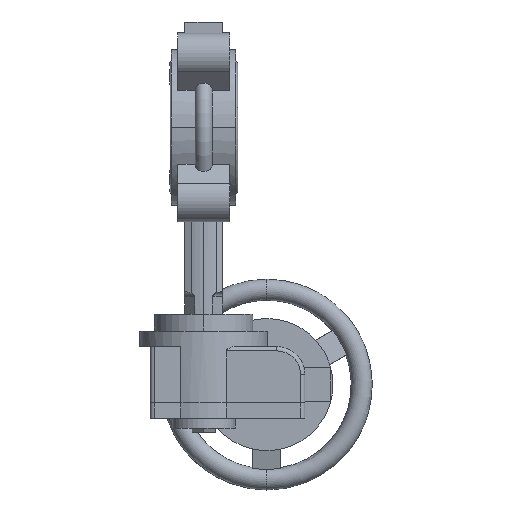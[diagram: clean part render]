
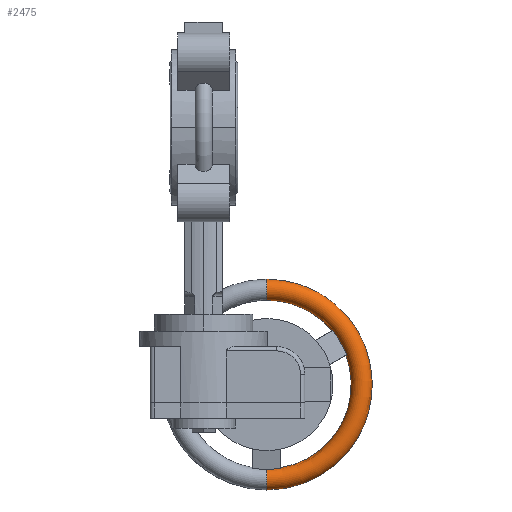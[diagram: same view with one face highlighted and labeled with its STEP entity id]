
A CAD part, left-side view. The second image highlights one B-rep face of the part: STEP entity #2475.
In plain terms, the highlighted toroidal (fillet/blend) face has major radius 67.5 mm and minor radius 7.5 mm.
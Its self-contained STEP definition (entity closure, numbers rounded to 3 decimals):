
#152 = DIRECTION ( 'NONE',  ( 0., -1., 0. ) ) ;
#168 = CARTESIAN_POINT ( 'NONE',  ( -160.626, -34.033, 84.43 ) ) ;
#220 = CARTESIAN_POINT ( 'NONE',  ( -161.319, -33.966, 84.314 ) ) ;
#335 = CARTESIAN_POINT ( 'NONE',  ( -161.319, 46.252, 38. ) ) ;
#371 = CARTESIAN_POINT ( 'NONE',  ( -159.921, 47.457, 28. ) ) ;
#430 = CARTESIAN_POINT ( 'NONE',  ( -162.262, 46.161, 38. ) ) ;
#503 = ORIENTED_EDGE ( 'NONE', *, *, #8174, .T. ) ;
#583 = EDGE_CURVE ( 'NONE', #5856, #6683, #4786, .T. ) ;
#640 = VERTEX_POINT ( 'NONE', #2527 ) ;
#646 = CARTESIAN_POINT ( 'NONE',  ( -162.5, -51.241, 74.235 ) ) ;
#761 = DIRECTION ( 'NONE',  ( -1., 0., 0. ) ) ;
#804 = CARTESIAN_POINT ( 'NONE',  ( -162.5, -80.5, 28. ) ) ;
#870 = CIRCLE ( 'NONE', #6025, 60. ) ;
#890 = ORIENTED_EDGE ( 'NONE', *, *, #7714, .T. ) ;
#902 = CARTESIAN_POINT ( 'NONE',  ( -159.921, 47.457, 31.343 ) ) ;
#939 = ORIENTED_EDGE ( 'NONE', *, *, #583, .T. ) ;
#990 = CARTESIAN_POINT ( 'NONE',  ( -159.857, -48.888, 76.797 ) ) ;
#1040 = CARTESIAN_POINT ( 'NONE',  ( -159.793, -35.752, 84.09 ) ) ;
#1103 = CARTESIAN_POINT ( 'NONE',  ( -162.5, -33.92, 84.235 ) ) ;
#1429 = B_SPLINE_CURVE_WITH_KNOTS ( 'NONE', 3,
 ( #9437, #430, #7263, #1792, #335, #5580, #8819, #9529 ),
 .UNSPECIFIED., .F., .F.,
 ( 4, 2, 2, 4 ),
 ( 0.047, 0.048, 0.048, 0.05 ),
 .UNSPECIFIED. ) ;
#1459 = DIRECTION ( 'NONE',  ( 0., 0., -1. ) ) ;
#1470 = ORIENTED_EDGE ( 'NONE', *, *, #3053, .T. ) ;
#1594 = CARTESIAN_POINT ( 'NONE',  ( -159.905, -40.318, 81.966 ) ) ;
#1610 = ORIENTED_EDGE ( 'NONE', *, *, #9621, .T. ) ;
#1718 = VERTEX_POINT ( 'NONE', #4149 ) ;
#1749 = CARTESIAN_POINT ( 'NONE',  ( -159.921, -41.797, 81.185 ) ) ;
#1770 = CARTESIAN_POINT ( 'NONE',  ( -162.262, -33.92, 84.235 ) ) ;
#1792 = CARTESIAN_POINT ( 'NONE',  ( -161.552, 46.218, 38. ) ) ;
#1915 = VERTEX_POINT ( 'NONE', #5585 ) ;
#2095 = CARTESIAN_POINT ( 'NONE',  ( -162.5, 54.5, 28. ) ) ;
#2126 = CARTESIAN_POINT ( 'NONE',  ( -162.5, -13., 28. ) ) ;
#2326 = AXIS2_PLACEMENT_3D ( 'NONE', #804, #1459, #761 ) ;
#2413 = VERTEX_POINT ( 'NONE', #371 ) ;
#2475 = ADVANCED_FACE ( 'NONE', ( #2777 ), #7711, .T. ) ;
#2527 = CARTESIAN_POINT ( 'NONE',  ( -159.729, -34.189, 84.701 ) ) ;
#2777 = FACE_OUTER_BOUND ( 'NONE', #6488, .T. ) ;
#2975 = CIRCLE ( 'NONE', #6360, 60. ) ;
#2980 = EDGE_CURVE ( 'NONE', #1718, #3933, #4512, .T. ) ;
#3053 = EDGE_CURVE ( 'NONE', #1915, #2413, #8951, .T. ) ;
#3218 = CARTESIAN_POINT ( 'NONE',  ( -161.552, -51.269, 74.284 ) ) ;
#3238 = AXIS2_PLACEMENT_3D ( 'NONE', #2095, #7467, #6775 ) ;
#3248 = EDGE_CURVE ( 'NONE', #2413, #3933, #8848, .T. ) ;
#3274 = CARTESIAN_POINT ( 'NONE',  ( -162.262, -51.241, 74.235 ) ) ;
#3359 = CARTESIAN_POINT ( 'NONE',  ( -159.857, 47.204, 34.677 ) ) ;
#3660 = EDGE_CURVE ( 'NONE', #8286, #640, #9787, .T. ) ;
#3933 = VERTEX_POINT ( 'NONE', #4633 ) ;
#3982 = VERTEX_POINT ( 'NONE', #6096 ) ;
#3983 = CARTESIAN_POINT ( 'NONE',  ( -161.319, -51.286, 74.314 ) ) ;
#4149 = CARTESIAN_POINT ( 'NONE',  ( -162.5, -88., 28. ) ) ;
#4385 = DIRECTION ( 'NONE',  ( -1., 0., 0. ) ) ;
#4512 = CIRCLE ( 'NONE', #5319, 75. ) ;
#4633 = CARTESIAN_POINT ( 'NONE',  ( -162.5, 62., 28. ) ) ;
#4786 = B_SPLINE_CURVE_WITH_KNOTS ( 'NONE', 3,
 ( #7885, #3274, #6490, #3218, #3983, #4977, #5596, #5744 ),
 .UNSPECIFIED., .F., .F.,
 ( 4, 2, 2, 4 ),
 ( 0.047, 0.048, 0.048, 0.05 ),
 .UNSPECIFIED. ) ;
#4845 = CARTESIAN_POINT ( 'NONE',  ( -162.023, -33.926, 84.245 ) ) ;
#4977 = CARTESIAN_POINT ( 'NONE',  ( -160.626, -51.354, 74.43 ) ) ;
#5101 = DIRECTION ( 'NONE',  ( 0., -1., 0. ) ) ;
#5203 = DIRECTION ( 'NONE',  ( -1., 0., 0. ) ) ;
#5319 = AXIS2_PLACEMENT_3D ( 'NONE', #6392, #8489, #152 ) ;
#5407 = ORIENTED_EDGE ( 'NONE', *, *, #2980, .F. ) ;
#5516 = ORIENTED_EDGE ( 'NONE', *, *, #3660, .F. ) ;
#5580 = CARTESIAN_POINT ( 'NONE',  ( -160.626, 46.387, 38. ) ) ;
#5585 = CARTESIAN_POINT ( 'NONE',  ( -159.729, 46.699, 38. ) ) ;
#5596 = CARTESIAN_POINT ( 'NONE',  ( -160.171, -51.421, 74.547 ) ) ;
#5702 = CARTESIAN_POINT ( 'NONE',  ( -161.552, -33.949, 84.284 ) ) ;
#5744 = CARTESIAN_POINT ( 'NONE',  ( -159.729, -51.51, 74.701 ) ) ;
#5815 = ORIENTED_EDGE ( 'NONE', *, *, #9069, .F. ) ;
#5856 = VERTEX_POINT ( 'NONE', #646 ) ;
#5967 = CARTESIAN_POINT ( 'NONE',  ( -159.729, -51.51, 74.701 ) ) ;
#6025 = AXIS2_PLACEMENT_3D ( 'NONE', #7000, #6253, #7933 ) ;
#6040 = CARTESIAN_POINT ( 'NONE',  ( -162.5, 46.161, 38. ) ) ;
#6096 = CARTESIAN_POINT ( 'NONE',  ( -162.5, -73., 28. ) ) ;
#6253 = DIRECTION ( 'NONE',  ( -1., 0., 0. ) ) ;
#6360 = AXIS2_PLACEMENT_3D ( 'NONE', #7445, #5203, #5101 ) ;
#6392 = CARTESIAN_POINT ( 'NONE',  ( -162.5, -13., 28. ) ) ;
#6435 = CARTESIAN_POINT ( 'NONE',  ( -159.921, 47.457, 28. ) ) ;
#6488 = EDGE_LOOP ( 'NONE', ( #5407, #5815, #503, #939, #1610, #5516, #6965, #890, #1470, #9754 ) ) ;
#6490 = CARTESIAN_POINT ( 'NONE',  ( -162.023, -51.246, 74.245 ) ) ;
#6683 = VERTEX_POINT ( 'NONE', #5967 ) ;
#6775 = DIRECTION ( 'NONE',  ( 0., -1., 0. ) ) ;
#6965 = ORIENTED_EDGE ( 'NONE', *, *, #9183, .T. ) ;
#6984 = CARTESIAN_POINT ( 'NONE',  ( -159.729, -34.189, 84.701 ) ) ;
#7000 = CARTESIAN_POINT ( 'NONE',  ( -162.5, -13., 28. ) ) ;
#7179 = CARTESIAN_POINT ( 'NONE',  ( -159.729, 46.699, 38. ) ) ;
#7192 = CARTESIAN_POINT ( 'NONE',  ( -160.171, -34.1, 84.547 ) ) ;
#7263 = CARTESIAN_POINT ( 'NONE',  ( -162.023, 46.172, 38. ) ) ;
#7445 = CARTESIAN_POINT ( 'NONE',  ( -162.5, -13., 28. ) ) ;
#7467 = DIRECTION ( 'NONE',  ( 0., 0., 1. ) ) ;
#7542 = CARTESIAN_POINT ( 'NONE',  ( -162.5, -33.92, 84.235 ) ) ;
#7543 = AXIS2_PLACEMENT_3D ( 'NONE', #2126, #4385, #8202 ) ;
#7711 = TOROIDAL_SURFACE ( 'NONE', #7543, 67.5, 7.5 ) ;
#7714 = EDGE_CURVE ( 'NONE', #9600, #1915, #1429, .T. ) ;
#7753 = B_SPLINE_CURVE_WITH_KNOTS ( 'NONE', 3,
 ( #8587, #990, #7778, #1749, #1594, #9344, #1040, #6984 ),
 .UNSPECIFIED., .F., .F.,
 ( 4, 2, 2, 4 ),
 ( 0., 0.01, 0.015, 0.02 ),
 .UNSPECIFIED. ) ;
#7778 = CARTESIAN_POINT ( 'NONE',  ( -159.921, -46.133, 78.68 ) ) ;
#7885 = CARTESIAN_POINT ( 'NONE',  ( -162.5, -51.241, 74.235 ) ) ;
#7933 = DIRECTION ( 'NONE',  ( 0., -1., 0. ) ) ;
#8174 = EDGE_CURVE ( 'NONE', #3982, #5856, #2975, .T. ) ;
#8202 = DIRECTION ( 'NONE',  ( 0., -1., 0. ) ) ;
#8286 = VERTEX_POINT ( 'NONE', #7542 ) ;
#8424 = CIRCLE ( 'NONE', #2326, 7.5 ) ;
#8489 = DIRECTION ( 'NONE',  ( -1., 0., 0. ) ) ;
#8587 = CARTESIAN_POINT ( 'NONE',  ( -159.729, -51.51, 74.701 ) ) ;
#8752 = CARTESIAN_POINT ( 'NONE',  ( -159.729, -34.189, 84.701 ) ) ;
#8819 = CARTESIAN_POINT ( 'NONE',  ( -160.171, 46.521, 38. ) ) ;
#8848 = CIRCLE ( 'NONE', #3238, 7.5 ) ;
#8951 = B_SPLINE_CURVE_WITH_KNOTS ( 'NONE', 3,
 ( #7179, #3359, #902, #6435 ),
 .UNSPECIFIED., .F., .F.,
 ( 4, 4 ),
 ( 0., 0.01 ),
 .UNSPECIFIED. ) ;
#9069 = EDGE_CURVE ( 'NONE', #3982, #1718, #8424, .T. ) ;
#9183 = EDGE_CURVE ( 'NONE', #8286, #9600, #870, .T. ) ;
#9344 = CARTESIAN_POINT ( 'NONE',  ( -159.841, -37.291, 83.421 ) ) ;
#9437 = CARTESIAN_POINT ( 'NONE',  ( -162.5, 46.161, 38. ) ) ;
#9529 = CARTESIAN_POINT ( 'NONE',  ( -159.729, 46.699, 38. ) ) ;
#9600 = VERTEX_POINT ( 'NONE', #6040 ) ;
#9621 = EDGE_CURVE ( 'NONE', #6683, #640, #7753, .T. ) ;
#9754 = ORIENTED_EDGE ( 'NONE', *, *, #3248, .T. ) ;
#9787 = B_SPLINE_CURVE_WITH_KNOTS ( 'NONE', 3,
 ( #1103, #1770, #4845, #5702, #220, #168, #7192, #8752 ),
 .UNSPECIFIED., .F., .F.,
 ( 4, 2, 2, 4 ),
 ( 0.047, 0.048, 0.048, 0.05 ),
 .UNSPECIFIED. ) ;
